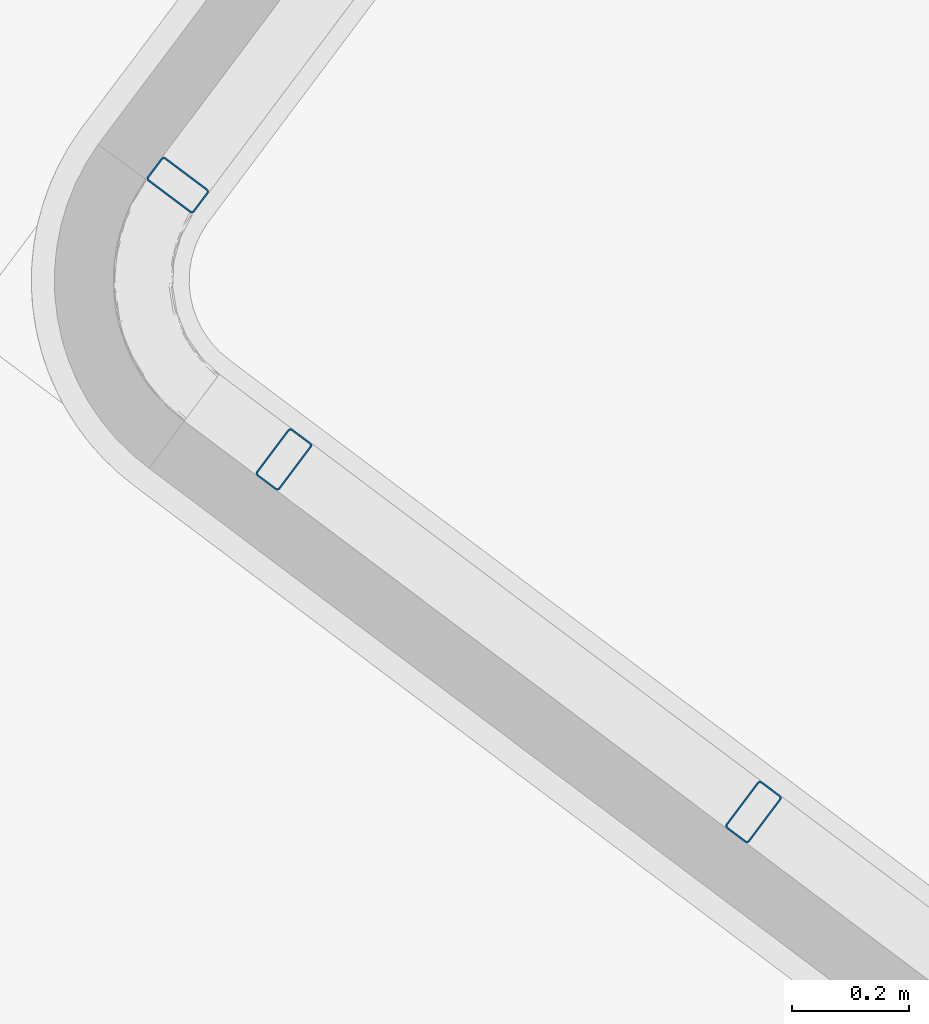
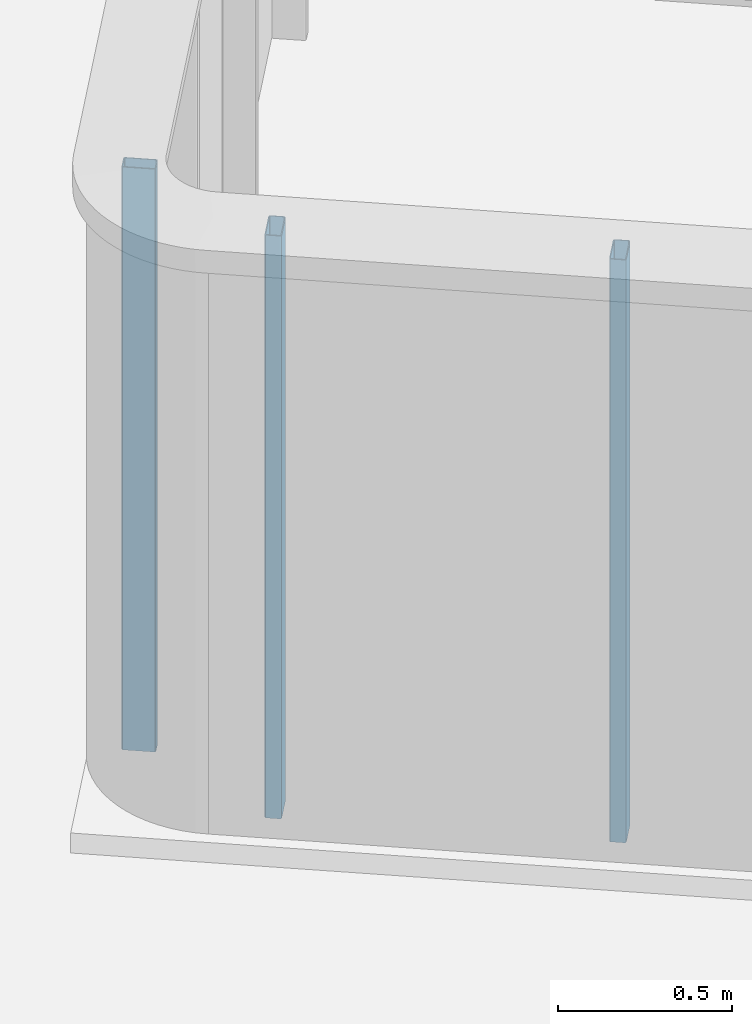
# One storey, part 1 of 28: 3 columns.
"""IFC2X3 building model written with IfcOpenShell, lengths in metres."""

from ifc_helpers import new_model, entity, si_unit, converted_unit, derived_unit, direction, frame, frame_2d, origin, place, context, subcontext, project, spatial, polyline, circle_curve, parameter, trimmed, segment, composite_curve, outline, extrude, source, transform, mapped, material, type_object, type_shapes, element, save


model = new_model("IFC2X3")

# Units and contexts
model_context = context("Model", 3, precision=1e-05, world=origin(), true_north=direction((6.123031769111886e-17, 1.0)))
body_context = subcontext(model_context, "Body", "Model", "MODEL_VIEW")
ifc_project = project(units=[si_unit("LENGTHUNIT", "METRE"), si_unit("AREAUNIT", "SQUARE_METRE"), si_unit("VOLUMEUNIT", "CUBIC_METRE"), converted_unit("PLANEANGLEUNIT", "DEGREE", entity("IfcRatioMeasure", 0.017453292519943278), si_unit("PLANEANGLEUNIT", "RADIAN"), dimensions=[0, 0, 0, 0, 0, 0, 0]), si_unit("MASSUNIT", "GRAM", prefix="KILO"), derived_unit("MASSDENSITYUNIT", [(si_unit("MASSUNIT", "GRAM", prefix="KILO"), 1), (si_unit("LENGTHUNIT", "METRE"), -3)]), derived_unit("IONCONCENTRATIONUNIT", [(si_unit("MASSUNIT", "GRAM", prefix="KILO"), 1), (si_unit("LENGTHUNIT", "METRE"), -3)]), derived_unit("MOMENTOFINERTIAUNIT", [(si_unit("LENGTHUNIT", "METRE"), 4)]), si_unit("TIMEUNIT", "SECOND"), si_unit("FREQUENCYUNIT", "HERTZ"), si_unit("THERMODYNAMICTEMPERATUREUNIT", "DEGREE_CELSIUS"), derived_unit("THERMALTRANSMITTANCEUNIT", [(si_unit("MASSUNIT", "GRAM", prefix="KILO"), 1), (si_unit("THERMODYNAMICTEMPERATUREUNIT", "KELVIN"), -1), (si_unit("TIMEUNIT", "SECOND"), -3)]), derived_unit("THERMALCONDUCTANCEUNIT", [(si_unit("MASSUNIT", "GRAM", prefix="KILO"), 1), (si_unit("THERMODYNAMICTEMPERATUREUNIT", "KELVIN"), -1), (si_unit("TIMEUNIT", "SECOND"), -3), (si_unit("LENGTHUNIT", "METRE"), 1)]), derived_unit("VOLUMETRICFLOWRATEUNIT", [(si_unit("LENGTHUNIT", "METRE"), 3), (si_unit("TIMEUNIT", "SECOND"), -1)]), derived_unit("MASSFLOWRATEUNIT", [(si_unit("MASSUNIT", "GRAM", prefix="KILO"), 1), (si_unit("TIMEUNIT", "SECOND"), -1)]), derived_unit("ROTATIONALFREQUENCYUNIT", [(si_unit("TIMEUNIT", "SECOND"), -1)]), si_unit("ELECTRICCURRENTUNIT", "AMPERE"), si_unit("ELECTRICVOLTAGEUNIT", "VOLT"), si_unit("POWERUNIT", "WATT"), si_unit("FORCEUNIT", "NEWTON", prefix="KILO"), si_unit("ILLUMINANCEUNIT", "LUX"), si_unit("LUMINOUSFLUXUNIT", "LUMEN"), si_unit("LUMINOUSINTENSITYUNIT", "CANDELA"), derived_unit("USERDEFINED", [(si_unit("MASSUNIT", "GRAM", prefix="KILO"), -1), (si_unit("LENGTHUNIT", "METRE"), -2), (si_unit("TIMEUNIT", "SECOND"), 3), (si_unit("LUMINOUSFLUXUNIT", "LUMEN"), 1)]), derived_unit("USERDEFINED", [(si_unit("MASSUNIT", "GRAM", prefix="KILO"), 1), (si_unit("TIMEUNIT", "SECOND"), -3), (si_unit("LENGTHUNIT", "METRE"), 3), (si_unit("ELECTRICCURRENTUNIT", "AMPERE"), -2)]), derived_unit("SOUNDPOWERUNIT", [(si_unit("MASSUNIT", "GRAM", prefix="KILO"), 1), (si_unit("TIMEUNIT", "SECOND"), -3), (si_unit("LENGTHUNIT", "METRE"), 2)]), derived_unit("SOUNDPRESSUREUNIT", [(si_unit("MASSUNIT", "GRAM", prefix="KILO"), 1), (si_unit("LENGTHUNIT", "METRE"), -1), (si_unit("TIMEUNIT", "SECOND"), -2)]), derived_unit("LINEARVELOCITYUNIT", [(si_unit("LENGTHUNIT", "METRE"), 1), (si_unit("TIMEUNIT", "SECOND"), -1)]), si_unit("PRESSUREUNIT", "PASCAL"), derived_unit("USERDEFINED", [(si_unit("MASSUNIT", "GRAM", prefix="KILO"), 1), (si_unit("LENGTHUNIT", "METRE"), -2), (si_unit("TIMEUNIT", "SECOND"), -2)]), derived_unit("LINEARFORCEUNIT", [(si_unit("MASSUNIT", "GRAM", prefix="KILO"), 1), (si_unit("TIMEUNIT", "SECOND"), -2)]), derived_unit("PLANARFORCEUNIT", [(si_unit("MASSUNIT", "GRAM", prefix="KILO"), 1), (si_unit("LENGTHUNIT", "METRE"), -1), (si_unit("TIMEUNIT", "SECOND"), -2)]), derived_unit("SPECIFICHEATCAPACITYUNIT", [(si_unit("THERMODYNAMICTEMPERATUREUNIT", "KELVIN"), -1), (si_unit("LENGTHUNIT", "METRE"), 2), (si_unit("TIMEUNIT", "SECOND"), -2)]), derived_unit("HEATINGVALUEUNIT", [(si_unit("LENGTHUNIT", "METRE"), 2), (si_unit("TIMEUNIT", "SECOND"), -2)]), derived_unit("VAPORPERMEABILITYUNIT", [(si_unit("LENGTHUNIT", "METRE"), -1), (si_unit("TIMEUNIT", "SECOND"), 1)]), derived_unit("DYNAMICVISCOSITYUNIT", [(si_unit("MASSUNIT", "GRAM", prefix="KILO"), 1), (si_unit("TIMEUNIT", "SECOND"), -1), (si_unit("LENGTHUNIT", "METRE"), -1)]), derived_unit("THERMALEXPANSIONCOEFFICIENTUNIT", [(si_unit("THERMODYNAMICTEMPERATUREUNIT", "KELVIN"), -1)]), derived_unit("MODULUSOFELASTICITYUNIT", [(si_unit("MASSUNIT", "GRAM", prefix="KILO"), 1), (si_unit("LENGTHUNIT", "METRE"), -1), (si_unit("TIMEUNIT", "SECOND"), -2)]), derived_unit("ISOTHERMALMOISTURECAPACITYUNIT", [(si_unit("LENGTHUNIT", "METRE"), 3), (si_unit("MASSUNIT", "GRAM", prefix="KILO"), -1)]), derived_unit("MOISTUREDIFFUSIVITYUNIT", [(si_unit("TIMEUNIT", "SECOND"), -1), (si_unit("LENGTHUNIT", "METRE"), 2)])], contexts=[model_context])

# Site, building, storey
site_placement = place(None, frame((0.0, 0.0, 235.0), z_axis=(0.0, 0.0, 1.0), x_axis=(-0.7996477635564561, 0.6004693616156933, 0.0)))
site = spatial("IfcSite", under=ifc_project, at=site_placement, Name="Default", CompositionType="ELEMENT")
building_placement = place(site_placement, origin())
building = spatial("IfcBuilding", under=site, at=building_placement, CompositionType="ELEMENT")
storey_placement = place(building_placement, frame((0.0, 0.0, 3.400000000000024)))
storey = spatial("IfcBuildingStorey", under=building, at=storey_placement, Name="PC- Coberta STR", CompositionType="ELEMENT", Elevation=3.400000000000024)

# Columns
ifc_material = material(Name="Metal - Acero - 345 MPa")
column_type = type_object("IfcColumnType", Name="STR- P- Acer- RHS- Rectangular- T1:100 x 50RHS", PredefinedType="COLUMN", material=ifc_material)
shared_shape = source(origin(), body_context, "Body", "SweptSolid", [
    extrude(outline(composite_curve([segment(polyline([(-0.01900000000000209, -0.04999999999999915), (0.019000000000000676, -0.04999999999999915)]), True, "CONTINUOUS"), segment(trimmed(circle_curve(frame_2d((0.019000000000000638, -0.04400000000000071), x_axis=(-1.0, 0.0)), 0.005999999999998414), [parameter(90.00000000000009)], [parameter(180.0000000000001)], True, "PARAMETER"), True, "CONTINUOUS"), segment(polyline([(0.024999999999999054, -0.044000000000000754), (0.02499999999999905, 0.044000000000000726)]), True, "CONTINUOUS"), segment(trimmed(circle_curve(frame_2d((0.018999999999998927, 0.044000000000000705), x_axis=(-1.0, 0.0)), 0.006000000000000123), [parameter(179.9999999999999)], [parameter(269.99999999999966)], True, "PARAMETER"), True, "CONTINUOUS"), segment(polyline([(0.018999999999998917, 0.05000000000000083), (-0.01899999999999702, 0.050000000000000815)]), True, "CONTINUOUS"), segment(trimmed(circle_curve(frame_2d((-0.018999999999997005, 0.043999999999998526), x_axis=(-1.0, 0.0)), 0.006000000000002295), [parameter(269.99999999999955)], [parameter(359.9999999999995)], True, "PARAMETER"), True, "CONTINUOUS"), segment(polyline([(-0.024999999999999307, 0.04399999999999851), (-0.024999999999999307, -0.04400000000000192)]), True, "CONTINUOUS"), segment(trimmed(circle_curve(frame_2d((-0.019000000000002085, -0.04400000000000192), x_axis=(-1.0, 0.0)), 0.005999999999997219), [parameter(359.9999999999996)], [parameter(89.99999999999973)], True, "PARAMETER"), True, "CONTINUOUS")], self_intersect=False), holes=[composite_curve([segment(trimmed(circle_curve(frame_2d((-0.019000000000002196, -0.044000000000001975), x_axis=(-1.0, 0.0)), 0.0029999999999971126), [parameter(0.0)], [parameter(90.00000000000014)], True, "PARAMETER"), False, "CONTINUOUS"), segment(polyline([(-0.021999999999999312, -0.044000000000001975), (-0.021999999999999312, 0.04400000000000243)]), True, "CONTINUOUS"), segment(trimmed(circle_curve(frame_2d((-0.019000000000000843, 0.04400000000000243), x_axis=(-1.0, 0.0)), 0.00299999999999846), [parameter(269.99999999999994)], [parameter(0.0)], True, "PARAMETER"), False, "CONTINUOUS"), segment(polyline([(-0.01900000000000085, 0.0470000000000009), (0.01899999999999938, 0.04700000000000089)]), True, "CONTINUOUS"), segment(trimmed(circle_curve(frame_2d((0.018999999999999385, 0.04399999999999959), x_axis=(-1.0, 0.0)), 0.0030000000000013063), [parameter(179.99999999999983)], [parameter(270.0)], True, "PARAMETER"), False, "CONTINUOUS"), segment(polyline([(0.022000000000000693, 0.04399999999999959), (0.022000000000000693, -0.04399999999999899)]), True, "CONTINUOUS"), segment(trimmed(circle_curve(frame_2d((0.019000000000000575, -0.043999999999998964), x_axis=(-1.0, 0.0)), 0.0030000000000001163), [parameter(90.00000000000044)], [parameter(180.0000000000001)], True, "PARAMETER"), False, "CONTINUOUS"), segment(polyline([(0.019000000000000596, -0.04699999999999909), (-0.019000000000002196, -0.04699999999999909)]), True, "CONTINUOUS")], self_intersect=False)]), frame((0.02658749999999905, 0.051587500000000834, 0.0), z_axis=(0.0, 0.0, 1.0), x_axis=(-1.0, 0.0, 0.0)), (0.0, 0.0, 1.0), 2.05),
])
type_shapes(column_type, [shared_shape])
for number, where, z_axis, x_axis, name in (
    (1, (34.061772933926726, -32.16360425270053, 0.4), (0.0, 0.0, 1.0), (-1.0, 0.0, 0.0), "STR- P- Acer- RHS- Rectangular- T1:100 x 50RHS"),
    (2, (33.061772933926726, -32.16360425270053, 0.4), (0.0, 0.0, 1.0), (-1.0, 0.0, 0.0), "STR- P- Acer- RHS- Rectangular- T1:100 x 50RHS"),
    (3, (34.40859795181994, -32.45360425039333, 0.4), (0.0, 0.0, 1.0), (0.0, -1.0, 0.0), "STR- P- Acer- RHS- Rectangular- T1:100 x 50RHS"),
):
    element("IfcColumn", number, at=place(storey_placement, frame(where, z_axis=z_axis, x_axis=x_axis)), inside=storey, type_object=column_type, material=ifc_material, Name=name, ObjectType="STR- P- Acer- RHS- Rectangular- T1:100 x 50RHS", context=body_context, shape_type="MappedRepresentation", body=[
        mapped(shared_shape, transform((0.0, 0.0, 0.0), scale=1.0)),
    ])

save(model, "model.ifc")
